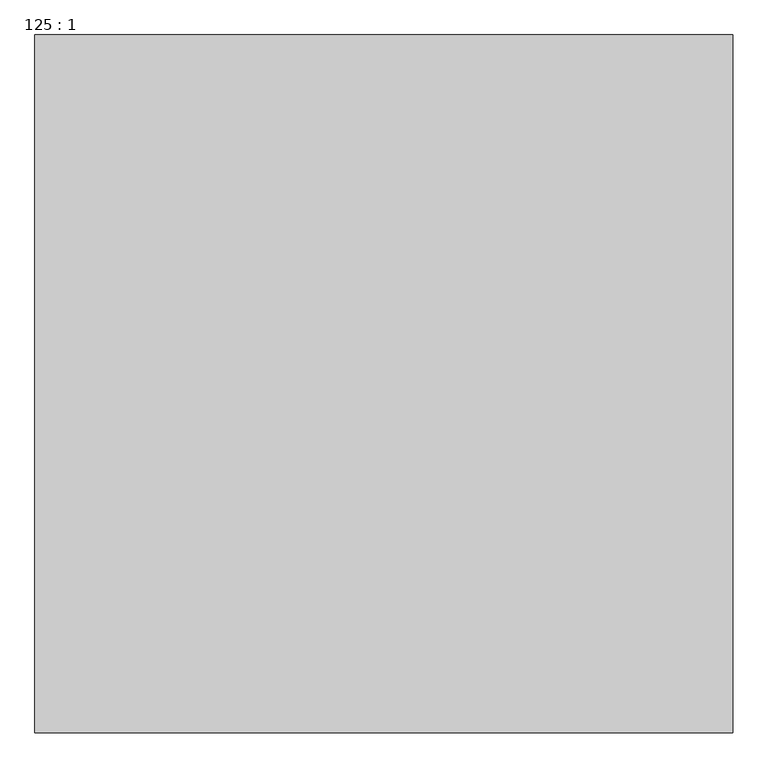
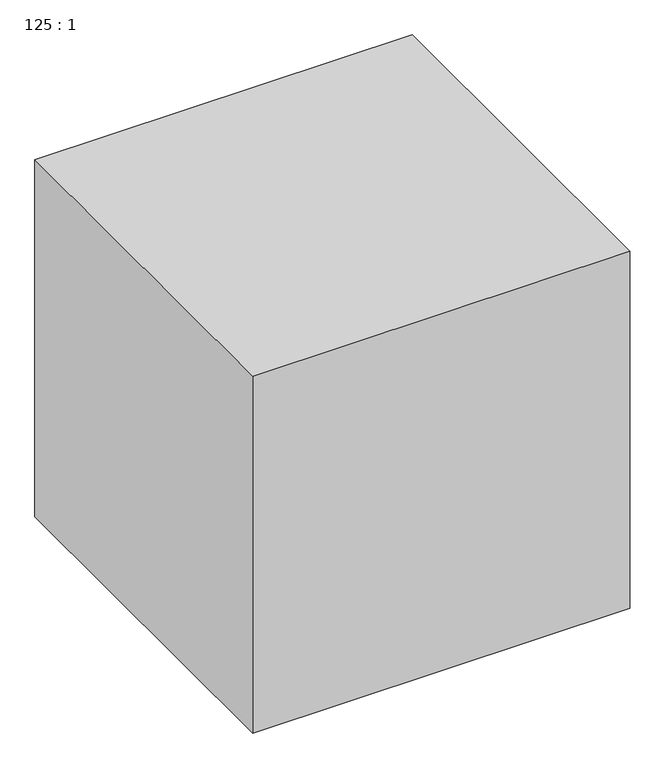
"""IFC4 building model written with IfcOpenShell, lengths in millimetres: proxy geometry, 125 : 1."""

from ifc_helpers import new_model, si_unit, origin, origin_with_axes, place, context, project, spatial, polyline, outline, extrude, source, transform, mapped, element, save


def proxy_125_1_ba956c72(model_context):
    return source(origin(), model_context, "Body", "SweptSolid", [
        extrude(outline(polyline([(21692.0243292, 3335.2294472), (21692.0243292, 2335.2294472), (20692.0243292, 2335.2294472), (20692.0243292, 3335.2294472), (21692.0243292, 3335.2294472)])), origin_with_axes(), (0.0, 0.0, 1.0), 1000.0),
    ])


if __name__ == "__main__":
    model = new_model("IFC4")
    model_context = context("Model", 3, world=origin())
    ifc_project = project(units=[si_unit("LENGTHUNIT", "METRE", prefix="MILLI")], contexts=[model_context])
    site = spatial("IfcSite", under=ifc_project)
    building = spatial("IfcBuilding", under=site)
    placement = place(None, origin())
    proxy_125_1_shape = proxy_125_1_ba956c72(model_context)
    element("IfcBuildingElementProxy", 1, Name="125 : 1", ObjectType="125 : 1", at=placement, inside=building, context=model_context, shape_type="MappedRepresentation", body=[
        mapped(proxy_125_1_shape, transform((0.0, 0.0, 0.0), x_axis=(1.0, 0.0, 0.0), y_axis=(0.0, 1.0, 0.0), z_axis=(0.0, 0.0, 1.0))),
    ])
    save(model, "model.ifc")
